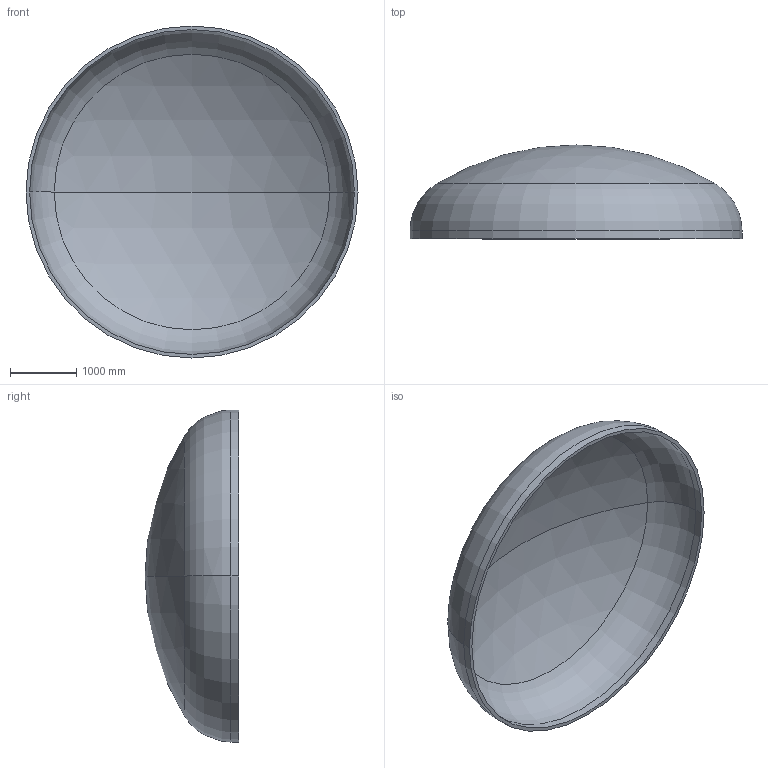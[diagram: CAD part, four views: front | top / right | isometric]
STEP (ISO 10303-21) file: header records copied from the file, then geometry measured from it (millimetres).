
FILE_DESCRIPTION (( 'STEP AP203' ), '1' );
FILE_NAME ('DIN 28013 Korbbogenform_-_Boden DIN 28013 - 5000 x 120 - I - s=54.step', '2016-07-02T00:37:08', ( '' ), ( '' ), 'SwSTEP 2.0', 'SolidWorks 2013', '' );
FILE_SCHEMA (( 'CONFIG_CONTROL_DESIGN' ));
Length unit declared in the file: millimetre
Products named in the file (1): DIN 28013 Korbbogenform_-_Boden DIN 28013 - 5000 x 120 - I - s=54
Bounding box: 5000 x 1412.85 x 5000 mm (x, y, z)
Volume: 1548346905.5 mm3; surface area: 58191336.6 mm2
Topology: 1 solids, 1 shells, 13 faces, 24 edges, 14 vertices
Faces by surface type: torus 4, cylinder 4, sphere 4, plane 1
Entity records: 407 total; most frequent: DIRECTION 72, CARTESIAN_POINT 52, ORIENTED_EDGE 48, AXIS2_PLACEMENT_3D 34, EDGE_CURVE 24, CIRCLE 20, EDGE_LOOP 14, VERTEX_POINT 14
